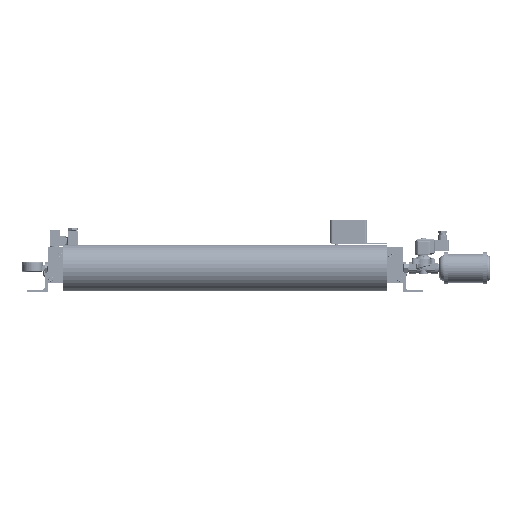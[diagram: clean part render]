
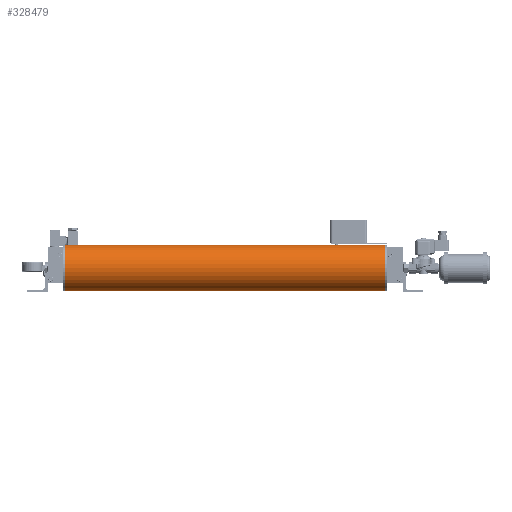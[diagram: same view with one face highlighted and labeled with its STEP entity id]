
A CAD part, left-side view. The second image highlights one B-rep face of the part: STEP entity #328479.
In plain terms, the highlighted cylindrical face has radius 57.15 mm (diameter 114.3 mm), a partial arc.
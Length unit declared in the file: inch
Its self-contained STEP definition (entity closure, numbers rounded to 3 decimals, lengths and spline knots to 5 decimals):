
#11942 = FACE_OUTER_BOUND ( 'NONE', #69510, .T. ) ;
#17941 = VERTEX_POINT ( 'NONE', #168121 ) ;
#19006 = DIRECTION ( 'NONE',  ( 0., 0., 1. ) ) ;
#28639 = CARTESIAN_POINT ( 'NONE',  ( -1.5, -0.187, -2.1 ) ) ;
#59488 = DIRECTION ( 'NONE',  ( 0., -1., 0. ) ) ;
#65502 = CYLINDRICAL_SURFACE ( 'NONE', #131562, 2.25 ) ;
#69510 = EDGE_LOOP ( 'NONE', ( #399537, #90847, #142941, #295622 ) ) ;
#82957 = CARTESIAN_POINT ( 'NONE',  ( -1.5, -31.437, -2.1 ) ) ;
#88571 = DIRECTION ( 'NONE',  ( 0., 0., -1. ) ) ;
#90847 = ORIENTED_EDGE ( 'NONE', *, *, #368340, .F. ) ;
#93714 = DIRECTION ( 'NONE',  ( 0., 0., 1. ) ) ;
#111276 = CIRCLE ( 'NONE', #224710, 2.25 ) ;
#111394 = CARTESIAN_POINT ( 'NONE',  ( -1.5, -31.437, 0.15 ) ) ;
#131560 = LINE ( 'NONE', #242036, #165455 ) ;
#131562 = AXIS2_PLACEMENT_3D ( 'NONE', #28639, #151049, #88571 ) ;
#142941 = ORIENTED_EDGE ( 'NONE', *, *, #340992, .T. ) ;
#151049 = DIRECTION ( 'NONE',  ( 0., -1., 0. ) ) ;
#165455 = VECTOR ( 'NONE', #59488, 39.37008 ) ;
#166444 = DIRECTION ( 'NONE',  ( 0., -1., 0. ) ) ;
#168121 = CARTESIAN_POINT ( 'NONE',  ( -1.5, -0.187, 0.15 ) ) ;
#188295 = VERTEX_POINT ( 'NONE', #358260 ) ;
#199780 = DIRECTION ( 'NONE',  ( 0., 1., 0. ) ) ;
#208445 = LINE ( 'NONE', #382749, #310832 ) ;
#224710 = AXIS2_PLACEMENT_3D ( 'NONE', #259752, #199780, #93714 ) ;
#234868 = AXIS2_PLACEMENT_3D ( 'NONE', #82957, #361672, #19006 ) ;
#235858 = VERTEX_POINT ( 'NONE', #111394 ) ;
#242036 = CARTESIAN_POINT ( 'NONE',  ( -1.5, -0.187, 0.15 ) ) ;
#246504 = EDGE_CURVE ( 'NONE', #188295, #235858, #342949, .T. ) ;
#259752 = CARTESIAN_POINT ( 'NONE',  ( -1.5, -0.187, -2.1 ) ) ;
#268748 = EDGE_CURVE ( 'NONE', #17941, #235858, #131560, .T. ) ;
#269104 = CARTESIAN_POINT ( 'NONE',  ( -1.5, -0.187, -4.35 ) ) ;
#295622 = ORIENTED_EDGE ( 'NONE', *, *, #246504, .T. ) ;
#310832 = VECTOR ( 'NONE', #166444, 39.37008 ) ;
#328479 = ADVANCED_FACE ( 'NONE', ( #11942 ), #65502, .T. ) ;
#340992 = EDGE_CURVE ( 'NONE', #363895, #188295, #208445, .T. ) ;
#342949 = CIRCLE ( 'NONE', #234868, 2.25 ) ;
#358260 = CARTESIAN_POINT ( 'NONE',  ( -1.5, -31.437, -4.35 ) ) ;
#361672 = DIRECTION ( 'NONE',  ( 0., 1., 0. ) ) ;
#363895 = VERTEX_POINT ( 'NONE', #269104 ) ;
#368340 = EDGE_CURVE ( 'NONE', #363895, #17941, #111276, .T. ) ;
#382749 = CARTESIAN_POINT ( 'NONE',  ( -1.5, -0.187, -4.35 ) ) ;
#399537 = ORIENTED_EDGE ( 'NONE', *, *, #268748, .F. ) ;
